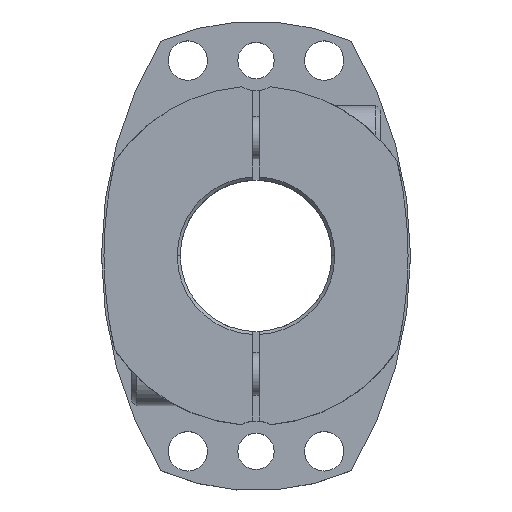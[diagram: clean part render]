
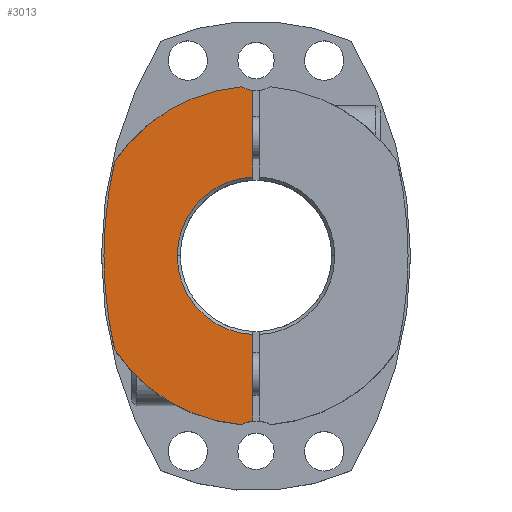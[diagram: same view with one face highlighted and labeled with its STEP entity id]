
A CAD part, top view. The second image highlights one B-rep face of the part: STEP entity #3013.
In plain terms, the highlighted planar face has unit normal (0, 0, 1).
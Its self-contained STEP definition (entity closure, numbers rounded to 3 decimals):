
#414=CARTESIAN_POINT('',(-26.,0.,42.5));
#415=VERTEX_POINT('',#414);
#422=CARTESIAN_POINT('',(-1.,-25.981,42.5));
#423=VERTEX_POINT('',#422);
#424=CARTESIAN_POINT('',(0.,0.,42.5));
#425=DIRECTION('',(0.0,0.0,1.0));
#426=DIRECTION('',(1.0,0.0,0.0));
#427=AXIS2_PLACEMENT_3D('',#424,#425,#426);
#428=CIRCLE('',#427,26.0);
#429=EDGE_CURVE('',#415,#423,#428,.T.);
#912=CARTESIAN_POINT('',(-50.2,0.,42.5));
#913=VERTEX_POINT('',#912);
#922=CARTESIAN_POINT('',(-46.66,30.965,42.5));
#923=VERTEX_POINT('',#922);
#924=CARTESIAN_POINT('',(87.,0.,42.5));
#925=DIRECTION('',(0.0,0.0,-1.0));
#926=DIRECTION('',(1.0,0.0,0.0));
#927=AXIS2_PLACEMENT_3D('',#924,#925,#926);
#928=CIRCLE('',#927,137.2);
#929=EDGE_CURVE('',#913,#923,#928,.T.);
#2026=CARTESIAN_POINT('',(-46.66,-30.965,42.5));
#2027=VERTEX_POINT('',#2026);
#2034=CARTESIAN_POINT('',(87.,0.,42.5));
#2035=DIRECTION('',(0.0,0.0,-1.0));
#2036=DIRECTION('',(1.0,0.0,0.0));
#2037=AXIS2_PLACEMENT_3D('',#2034,#2035,#2036);
#2038=CIRCLE('',#2037,137.2);
#2039=EDGE_CURVE('',#2027,#913,#2038,.T.);
#2637=CARTESIAN_POINT('',(-1.,54.55,42.5));
#2638=VERTEX_POINT('',#2637);
#2645=CARTESIAN_POINT('',(-1.,25.981,42.5));
#2646=VERTEX_POINT('',#2645);
#2647=CARTESIAN_POINT('',(-1.,25.981,42.5));
#2648=DIRECTION('',(0.0,1.0,0.0));
#2649=VECTOR('',#2648,28.569);
#2650=LINE('',#2647,#2649);
#2651=EDGE_CURVE('',#2646,#2638,#2650,.T.);
#2739=CARTESIAN_POINT('',(-1.,-54.55,42.5));
#2740=VERTEX_POINT('',#2739);
#2741=CARTESIAN_POINT('',(-1.,-54.55,42.5));
#2742=DIRECTION('',(0.0,1.0,0.0));
#2743=VECTOR('',#2742,28.569);
#2744=LINE('',#2741,#2743);
#2745=EDGE_CURVE('',#2740,#423,#2744,.T.);
#2826=CARTESIAN_POINT('',(-4.904,-55.785,42.5));
#2827=VERTEX_POINT('',#2826);
#2828=CARTESIAN_POINT('',(0.,-64.5,42.5));
#2829=DIRECTION('',(0.0,0.0,-1.0));
#2830=DIRECTION('',(1.0,0.0,0.0));
#2831=AXIS2_PLACEMENT_3D('',#2828,#2829,#2830);
#2832=CIRCLE('',#2831,10.0);
#2833=EDGE_CURVE('',#2827,#2740,#2832,.T.);
#2970=CARTESIAN_POINT('',(0.,0.,42.5));
#2971=DIRECTION('',(0.0,0.0,1.0));
#2972=DIRECTION('',(1.0,0.0,0.0));
#2973=AXIS2_PLACEMENT_3D('',#2970,#2971,#2972);
#2974=PLANE('',#2973);
#2975=ORIENTED_EDGE('',*,*,#2745,.T.);
#2976=ORIENTED_EDGE('',*,*,#429,.F.);
#2977=CARTESIAN_POINT('',(0.,0.,42.5));
#2978=DIRECTION('',(0.0,0.0,1.0));
#2979=DIRECTION('',(1.0,0.0,0.0));
#2980=AXIS2_PLACEMENT_3D('',#2977,#2978,#2979);
#2981=CIRCLE('',#2980,26.0);
#2982=EDGE_CURVE('',#2646,#415,#2981,.T.);
#2983=ORIENTED_EDGE('',*,*,#2982,.F.);
#2984=ORIENTED_EDGE('',*,*,#2651,.T.);
#2985=CARTESIAN_POINT('',(-4.904,55.785,42.5));
#2986=VERTEX_POINT('',#2985);
#2987=CARTESIAN_POINT('',(0.,64.5,42.5));
#2988=DIRECTION('',(0.0,0.0,-1.0));
#2989=DIRECTION('',(1.0,0.0,0.0));
#2990=AXIS2_PLACEMENT_3D('',#2987,#2988,#2989);
#2991=CIRCLE('',#2990,10.0);
#2992=EDGE_CURVE('',#2638,#2986,#2991,.T.);
#2993=ORIENTED_EDGE('',*,*,#2992,.T.);
#2994=CARTESIAN_POINT('',(0.,0.,42.5));
#2995=DIRECTION('',(0.0,0.0,-1.0));
#2996=DIRECTION('',(1.0,0.0,0.0));
#2997=AXIS2_PLACEMENT_3D('',#2994,#2995,#2996);
#2998=CIRCLE('',#2997,56.);
#2999=EDGE_CURVE('',#923,#2986,#2998,.T.);
#3000=ORIENTED_EDGE('',*,*,#2999,.F.);
#3001=ORIENTED_EDGE('',*,*,#929,.F.);
#3002=ORIENTED_EDGE('',*,*,#2039,.F.);
#3003=CARTESIAN_POINT('',(0.,0.0,42.5));
#3004=DIRECTION('',(0.0,0.0,-1.0));
#3005=DIRECTION('',(1.0,0.0,0.0));
#3006=AXIS2_PLACEMENT_3D('',#3003,#3004,#3005);
#3007=CIRCLE('',#3006,56.);
#3008=EDGE_CURVE('',#2827,#2027,#3007,.T.);
#3009=ORIENTED_EDGE('',*,*,#3008,.F.);
#3010=ORIENTED_EDGE('',*,*,#2833,.T.);
#3011=EDGE_LOOP('',(#2975,#2976,#2983,#2984,#2993,#3000,#3001,#3002,#3009,#3010));
#3012=FACE_OUTER_BOUND('',#3011,.T.);
#3013=ADVANCED_FACE('',(#3012),#2974,.T.);
